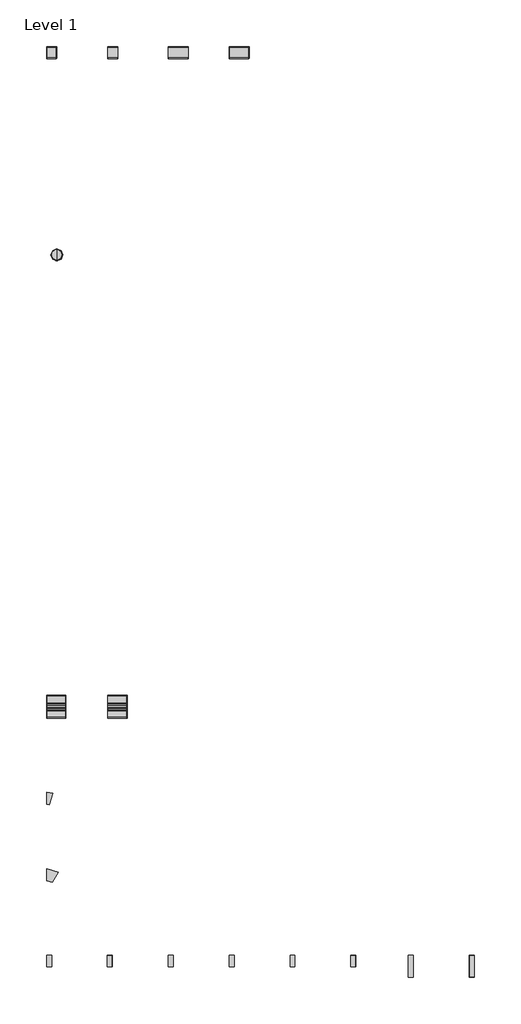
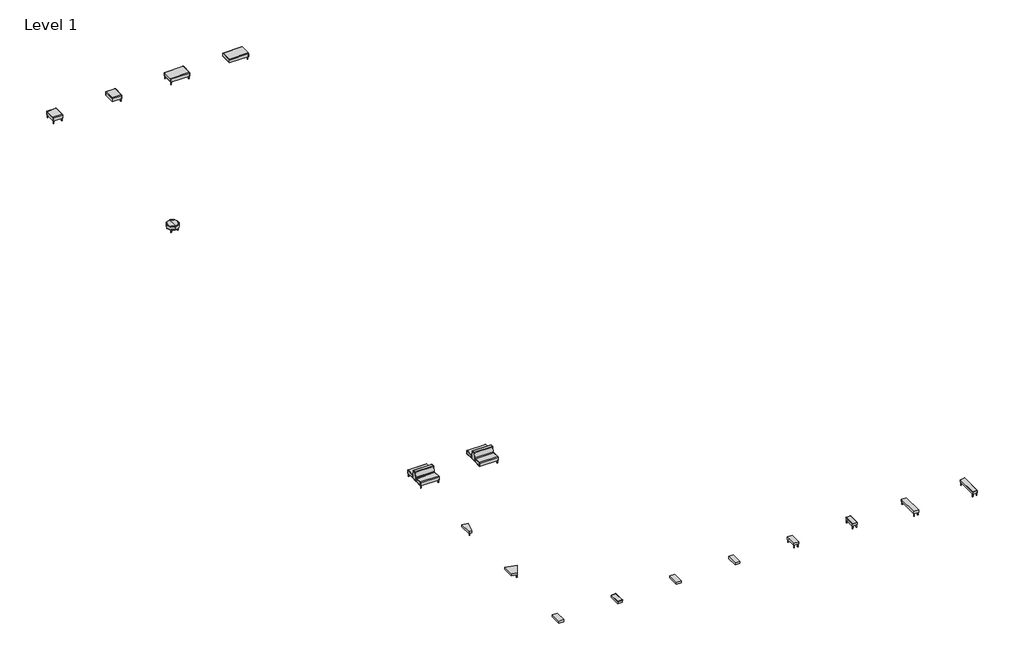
# One storey, incomplete: 17 furniture elements.
"""IFC4 building model written with IfcOpenShell, lengths in millimetres."""

from ifc_helpers import new_model, si_unit, origin, place, context, project, spatial, transform, mapped, element, save
from components import furniture_20ee3a26, furniture_7440f04f, furniture_84c0f61d, furniture_616b9f79, fab125_ccfe8eac, fab125c_67cc7816, fab150_d09243b9, fab150c_0cfd3284, fal248a_1760e78e, fal248a_34353e28, fal248a_cc7b1910, fal248a_ccf3dbf3, fal248ac_28e8df74, fao130_a09f7fab, fat132914_p_32fc218b, fat132914_s_00388e72, fat135614_p_c2833e48, fat135614_s_ff9385a6

model = new_model("IFC4")

# Units and contexts
model_context = context("Model", 3, world=origin())
ifc_project = project(units=[si_unit("LENGTHUNIT", "METRE", prefix="MILLI")], contexts=[model_context])

# Site, building, storey
site = spatial("IfcSite", under=ifc_project)
building = spatial("IfcBuilding", under=site)
storey = spatial("IfcBuildingStorey", under=building, Name="Level 1", Elevation=0.0)

# Furniture
placement = place(None, origin())
furniture_shape = furniture_20ee3a26(model_context)
element("IfcFurniture", 1, ObjectType="Stance_HC-Flora-Table_Curve_15 : FATR15WC-P", at=placement, inside=storey, context=model_context, shape_type="MappedRepresentation", body=[
    mapped(furniture_shape, transform((-18513.7519884, -38824.2773011, 0.0), x_axis=(1.0, 0.0, 0.0), y_axis=(0.0, 1.0, 0.0), z_axis=(0.0, 0.0, 1.0))),
])
furniture_2_shape = furniture_7440f04f(model_context)
element("IfcFurniture", 2, ObjectType="Stance_HC-Flora-Table_Curve_30 : FATR30WC-P", at=placement, inside=storey, context=model_context, shape_type="MappedRepresentation", body=[
    mapped(furniture_2_shape, transform((-18513.7519884, -43702.133558, 0.0), x_axis=(1.0, 0.0, 0.0), y_axis=(0.0, 1.0, 0.0), z_axis=(0.0, 0.0, 1.0))),
])
furniture_3_shape = furniture_84c0f61d(model_context)
element("IfcFurniture", 3, ObjectType="Stance_HC-Flora-Table_Straight : FAT13296C-P", at=placement, inside=storey, context=model_context, shape_type="MappedRepresentation", body=[
    mapped(furniture_3_shape, transform((-18513.7519884, -49179.3035898, 0.0), x_axis=(1.0, 0.0, 0.0), y_axis=(0.0, 1.0, 0.0), z_axis=(0.0, 0.0, 1.0))),
])
furniture_4_shape = furniture_616b9f79(model_context)
element("IfcFurniture", 4, ObjectType="Stance_HC-Flora-Table_Straight : FAT13296C-S", at=placement, inside=storey, context=model_context, shape_type="MappedRepresentation", body=[
    mapped(furniture_4_shape, transform((-14634.0308578, -49179.3035898, 0.0), x_axis=(1.0, 0.0, 0.0), y_axis=(0.0, 1.0, 0.0), z_axis=(0.0, 0.0, 1.0))),
])
element("IfcFurniture", 5, ObjectType="Stance_HC-Flora-Table_Straight : FAT13566C-P", at=placement, inside=storey, context=model_context, shape_type="MappedRepresentation", body=[
    mapped(furniture_3_shape, transform((-10754.3097273, -49179.3035898, 0.0), x_axis=(1.0, 0.0, 0.0), y_axis=(0.0, 1.0, 0.0), z_axis=(0.0, 0.0, 1.0))),
])
element("IfcFurniture", 6, ObjectType="Stance_HC-Flora-Table_Straight : FAT13566C-S", at=placement, inside=storey, context=model_context, shape_type="MappedRepresentation", body=[
    mapped(furniture_3_shape, transform((-6874.5885968, -49179.3035898, 0.0), x_axis=(1.0, 0.0, 0.0), y_axis=(0.0, 1.0, 0.0), z_axis=(0.0, 0.0, 1.0))),
])
fab125_shape = fab125_ccfe8eac(model_context)
element("IfcFurniture", 7, ObjectType="Stance_HC-Flora-Bench_Straight : FAB125", at=placement, inside=storey, context=model_context, shape_type="MappedRepresentation", body=[
    mapped(fab125_shape, transform((-18513.7519884, 8718.9757582, 0.0), x_axis=(1.0, 0.0, 0.0), y_axis=(0.0, 1.0, 0.0), z_axis=(0.0, 0.0, 1.0))),
])
fab125c_shape = fab125c_67cc7816(model_context)
element("IfcFurniture", 8, ObjectType="Stance_HC-Flora-Bench_Straight : FAB125C", at=placement, inside=storey, context=model_context, shape_type="MappedRepresentation", body=[
    mapped(fab125c_shape, transform((-14612.9228223, 8718.9757582, 0.0), x_axis=(1.0, 0.0, 0.0), y_axis=(0.0, 1.0, 0.0), z_axis=(0.0, 0.0, 1.0))),
])
fab150_shape = fab150_d09243b9(model_context)
element("IfcFurniture", 9, ObjectType="Stance_HC-Flora-Bench_Straight : FAB150", at=placement, inside=storey, context=model_context, shape_type="MappedRepresentation", body=[
    mapped(fab150_shape, transform((-10754.3097273, 8718.9757582, 0.0), x_axis=(1.0, 0.0, 0.0), y_axis=(0.0, 1.0, 0.0), z_axis=(0.0, 0.0, 1.0))),
])
fab150c_shape = fab150c_0cfd3284(model_context)
element("IfcFurniture", 10, ObjectType="Stance_HC-Flora-Bench_Straight : FAB150C", at=placement, inside=storey, context=model_context, shape_type="MappedRepresentation", body=[
    mapped(fab150c_shape, transform((-6874.5885968, 8718.9757582, 0.0), x_axis=(1.0, 0.0, 0.0), y_axis=(0.0, 1.0, 0.0), z_axis=(0.0, 0.0, 1.0))),
])
fal248a_shape = fal248a_1760e78e(model_context)
fal248a_2_shape = fal248a_34353e28(model_context)
fal248a_3_shape = fal248a_cc7b1910(model_context)
fal248a_4_shape = fal248a_ccf3dbf3(model_context)
element("IfcFurniture", 11, ObjectType="Stance_HC-Flora-Seat_Straight-Double_Side : FAL248A", at=placement, inside=storey, context=model_context, shape_type="MappedRepresentation", body=[
    mapped(fal248a_shape, transform((-18513.7519884, -33357.8378349, 0.0), x_axis=(1.0, 0.0, 0.0), y_axis=(0.0, 1.0, 0.0), z_axis=(0.0, 0.0, 1.0))),
    mapped(fal248a_2_shape, transform((-18513.7519884, -33357.8378349, 0.0), x_axis=(1.0, 0.0, 0.0), y_axis=(0.0, 1.0, 0.0), z_axis=(0.0, 0.0, 1.0))),
    mapped(fal248a_3_shape, transform((-18513.7519884, -33357.8378349, 0.0), x_axis=(1.0, 0.0, 0.0), y_axis=(0.0, 1.0, 0.0), z_axis=(0.0, 0.0, 1.0))),
    mapped(fal248a_4_shape, transform((-18513.7519884, -33357.8378349, 0.0), x_axis=(1.0, 0.0, 0.0), y_axis=(0.0, 1.0, 0.0), z_axis=(0.0, 0.0, 1.0))),
])
fal248ac_shape = fal248ac_28e8df74(model_context)
element("IfcFurniture", 12, ObjectType="Stance_HC-Flora-Seat_Straight-Double_Side : FAL248AC", at=placement, inside=storey, context=model_context, shape_type="MappedRepresentation", body=[
    mapped(fal248ac_shape, transform((-14612.9228223, -33357.8378349, 0.0), x_axis=(1.0, 0.0, 0.0), y_axis=(0.0, 1.0, 0.0), z_axis=(0.0, 0.0, 1.0))),
    mapped(fal248a_3_shape, transform((-14612.9228223, -33357.8378349, 0.0), x_axis=(1.0, 0.0, 0.0), y_axis=(0.0, 1.0, 0.0), z_axis=(0.0, 0.0, 1.0))),
    mapped(fal248a_4_shape, transform((-14612.9228223, -33357.8378349, 0.0), x_axis=(1.0, 0.0, 0.0), y_axis=(0.0, 1.0, 0.0), z_axis=(0.0, 0.0, 1.0))),
])
fao130_shape = fao130_a09f7fab(model_context)
element("IfcFurniture", 13, ObjectType="Stance_HC-Flora-Round_Otto : FAO130", at=placement, inside=storey, context=model_context, shape_type="MappedRepresentation", body=[
    mapped(fao130_shape, transform((-17857.4341792, -4561.9315207, 0.0), x_axis=(1.0, 0.0, 0.0), y_axis=(0.0, 1.0, 0.0), z_axis=(0.0, 0.0, 1.0))),
])
fat132914_p_shape = fat132914_p_32fc218b(model_context)
element("IfcFurniture", 14, ObjectType="Stance_HC-Flora-Table_Straight : FAT132914-P", at=placement, inside=storey, context=model_context, shape_type="MappedRepresentation", body=[
    mapped(fat132914_p_shape, transform((-2994.8674662, -49179.3035898, 0.0), x_axis=(1.0, 0.0, 0.0), y_axis=(0.0, 1.0, 0.0), z_axis=(0.0, 0.0, 1.0))),
])
fat132914_s_shape = fat132914_s_00388e72(model_context)
element("IfcFurniture", 15, ObjectType="Stance_HC-Flora-Table_Straight : FAT132914-S", at=placement, inside=storey, context=model_context, shape_type="MappedRepresentation", body=[
    mapped(fat132914_s_shape, transform((884.8536643, -49179.3035898, 0.0), x_axis=(1.0, 0.0, 0.0), y_axis=(0.0, 1.0, 0.0), z_axis=(0.0, 0.0, 1.0))),
])
fat135614_p_shape = fat135614_p_c2833e48(model_context)
element("IfcFurniture", 16, ObjectType="Stance_HC-Flora-Table_Straight : FAT135614-P", at=placement, inside=storey, context=model_context, shape_type="MappedRepresentation", body=[
    mapped(fat135614_p_shape, transform((4546.0928355, -49179.3035898, 0.0), x_axis=(1.0, 0.0, 0.0), y_axis=(0.0, 1.0, 0.0), z_axis=(0.0, 0.0, 1.0))),
])
fat135614_s_shape = fat135614_s_ff9385a6(model_context)
element("IfcFurniture", 17, ObjectType="Stance_HC-Flora-Table_Straight : FAT135614-S", at=placement, inside=storey, context=model_context, shape_type="MappedRepresentation", body=[
    mapped(fat135614_s_shape, transform((8425.813966, -49179.3035898, 0.0), x_axis=(1.0, 0.0, 0.0), y_axis=(0.0, 1.0, 0.0), z_axis=(0.0, 0.0, 1.0))),
])

save(model, "model.ifc")
